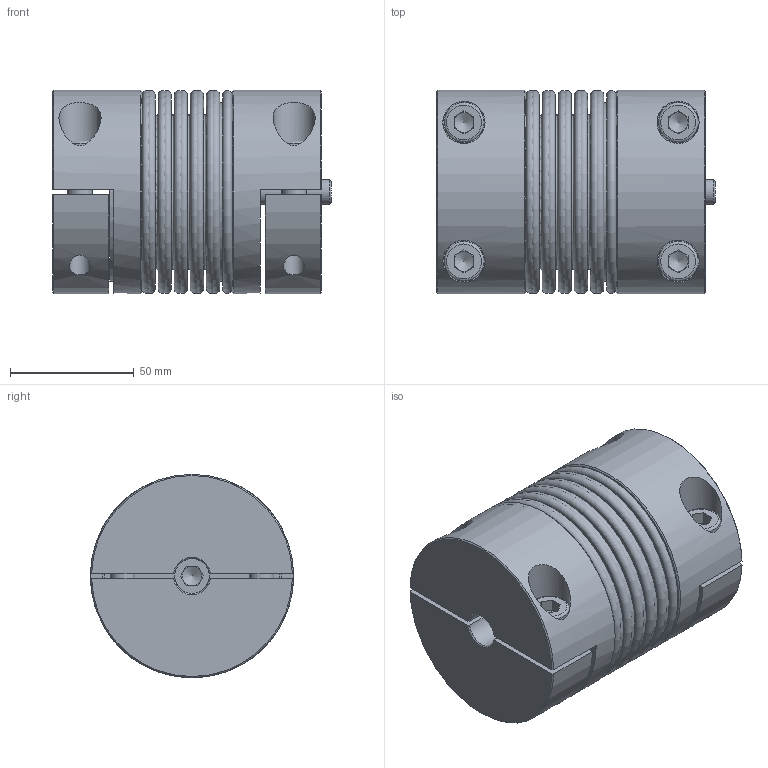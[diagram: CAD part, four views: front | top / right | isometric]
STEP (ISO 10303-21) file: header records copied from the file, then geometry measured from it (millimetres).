
FILE_DESCRIPTION( ( 'Unknown' ), '1' );
FILE_NAME( 'C:/Dokumente und Einstellungen/SKarpstein/Desktop/hp kbk/KB4H-80-106.stp', 'Unknown', ( 'Unknown' ), ( 'Unknown' ), 'XStep 1.0', 'Unknown', ' ' );
FILE_SCHEMA( ( 'automotive_design' ) );
Length unit declared in the file: millimetre
Products named in the file (5): Assem1; KN4H-150; Socket Head Cap Screw_DIN_DIN 912 M10 x 30 --- 30N_8; BL80-150_Standard_3
Bounding box: 112.35 x 82 x 82 mm (x, y, z)
Volume: 548636.2 mm3; surface area: 240438.8 mm2
Topology: 13 solids, 13 shells, 287 faces, 573 edges, 368 vertices
Faces by surface type: plane 160, torus 54, cylinder 48, cone 25
Full cylindrical faces by diameter (mm): 8.376 x6, 10 x5, 10.5 x6, 14 x3, 16 x5, 17 x6, 70.7 x4, 71.9 x4, 82 x3
Entity records: 3132 total; most frequent: CARTESIAN_POINT 716, DIRECTION 434, ORIENTED_EDGE 280, AXIS2_PLACEMENT_3D 197, EDGE_LOOP 178, EDGE_CURVE 140, FACE_OUTER_BOUND 137, VERTEX_POINT 117
